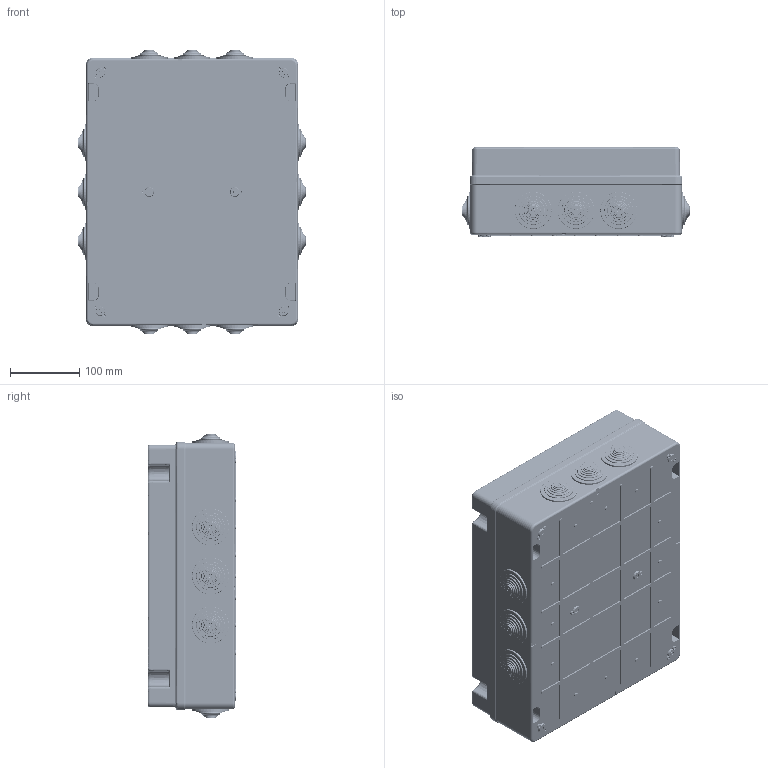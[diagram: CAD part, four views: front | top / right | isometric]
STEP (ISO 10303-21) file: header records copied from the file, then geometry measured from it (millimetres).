
FILE_DESCRIPTION(/* description */ (''),/* implementation_level */ '2;1');
FILE_NAME(/* name */ '4003372.stp',/* time_stamp */ '2019-03-01T10:42:03+01:00',/* author */ (''),/* organization */ (''),/* preprocessor_version */ 'ST-DEVELOPER v16.7',/* originating_system */ 'SIEMENS PLM Software NX 12.0',/* authorisation */ '');
FILE_SCHEMA (('AUTOMOTIVE_DESIGN { 1 0 10303 214 3 1 1 1 }'));
Products named in the file (1): bsom23CC53FBow2t
Bounding box: 331.5 x 128.8 x 411.5 mm (x, y, z)
Volume: 1296670.5 mm3; surface area: 1074225.2 mm2
Topology: 18 solids, 18 shells, 2880 faces, 6768 edges, 4358 vertices
Faces by surface type: plane 1261, cone 692, cylinder 487, torus 248, bspline 156, revolution 24, sphere 12
Full cylindrical faces by diameter (mm): 2.1 x2, 2.4 x10, 2.8 x12, 3.2 x4, 3.4 x4, 4 x4, 4.4 x8, 5.9 x12, 7 x4, 7.5 x4, 8 x4, 10 x6, 13 x12, 14.6 x12, 17.7 x12, 21.7 x12, 26.7 x12, 33.7 x12, 41.7 x12, 47.4 x12, 47.5 x12, 52.5 x12, 53.5 x12
Entity records: 109010 total; most frequent: CARTESIAN_POINT 30506, DIRECTION 12668, ORIENTED_EDGE 11292, EDGE_CURVE 5646, AXIS2_PLACEMENT_3D 5098, EDGE_LOOP 4200, VERTEX_POINT 4090, ADVANCED_FACE 2880
